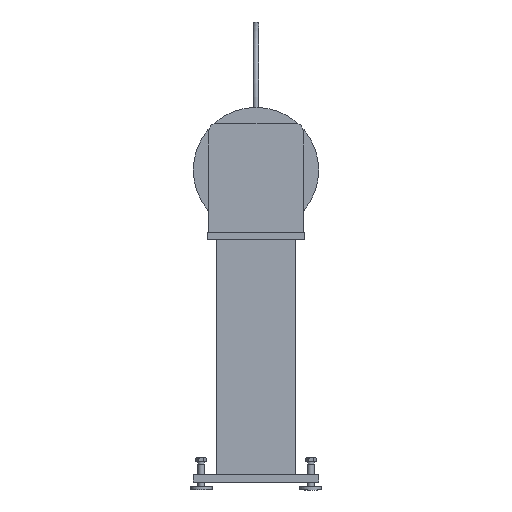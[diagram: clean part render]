
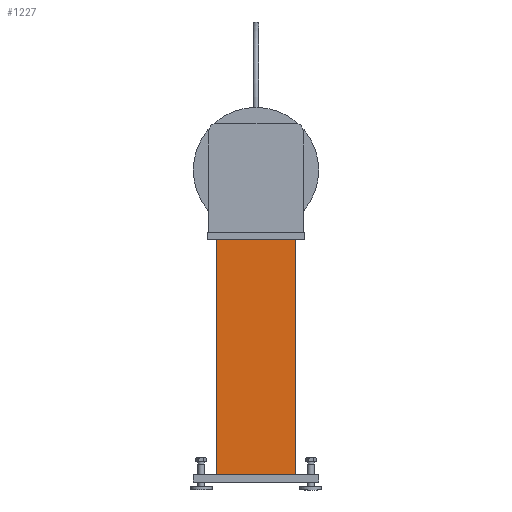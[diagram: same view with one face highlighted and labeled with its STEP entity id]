
A CAD part, front view. The second image highlights one B-rep face of the part: STEP entity #1227.
In plain terms, the highlighted planar face has unit normal (0, -1, 0).
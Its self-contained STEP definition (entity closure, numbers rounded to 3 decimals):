
#201=CARTESIAN_POINT('',(125.,-1237.5,607.5));
#202=VERTEX_POINT('',#201);
#209=CARTESIAN_POINT('',(125.,-1237.5,-140.));
#210=VERTEX_POINT('',#209);
#211=CARTESIAN_POINT('',(125.,-1237.5,-140.));
#212=DIRECTION('',(0.0,0.0,1.0));
#213=VECTOR('',#212,747.5);
#214=LINE('',#211,#213);
#215=EDGE_CURVE('',#210,#202,#214,.T.);
#395=CARTESIAN_POINT('',(-125.,-1237.5,-140.));
#396=VERTEX_POINT('',#395);
#397=CARTESIAN_POINT('',(125.,-1237.5,-140.));
#398=DIRECTION('',(-1.0,0.0,0.0));
#399=VECTOR('',#398,250.);
#400=LINE('',#397,#399);
#401=EDGE_CURVE('',#210,#396,#400,.T.);
#1060=CARTESIAN_POINT('',(-125.,-1237.5,607.5));
#1061=VERTEX_POINT('',#1060);
#1062=CARTESIAN_POINT('',(-125.,-1237.5,607.5));
#1063=DIRECTION('',(1.0,0.0,0.0));
#1064=VECTOR('',#1063,250.);
#1065=LINE('',#1062,#1064);
#1066=EDGE_CURVE('',#1061,#202,#1065,.T.);
#1211=CARTESIAN_POINT('',(109.,-1237.5,233.75));
#1212=DIRECTION('',(0.0,-1.0,0.0));
#1213=DIRECTION('',(1.0,0.0,0.0));
#1214=AXIS2_PLACEMENT_3D('',#1211,#1212,#1213);
#1215=PLANE('',#1214);
#1216=ORIENTED_EDGE('',*,*,#1066,.F.);
#1217=CARTESIAN_POINT('',(-125.,-1237.5,-140.));
#1218=DIRECTION('',(0.0,0.0,1.0));
#1219=VECTOR('',#1218,747.5);
#1220=LINE('',#1217,#1219);
#1221=EDGE_CURVE('',#396,#1061,#1220,.T.);
#1222=ORIENTED_EDGE('',*,*,#1221,.F.);
#1223=ORIENTED_EDGE('',*,*,#401,.F.);
#1224=ORIENTED_EDGE('',*,*,#215,.T.);
#1225=EDGE_LOOP('',(#1216,#1222,#1223,#1224));
#1226=FACE_OUTER_BOUND('',#1225,.T.);
#1227=ADVANCED_FACE('',(#1226),#1215,.T.);
